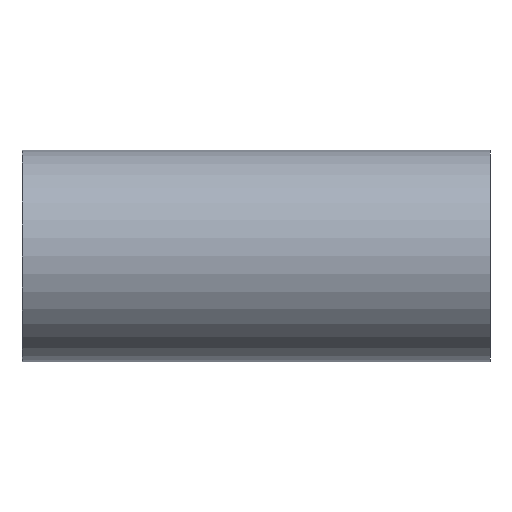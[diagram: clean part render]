
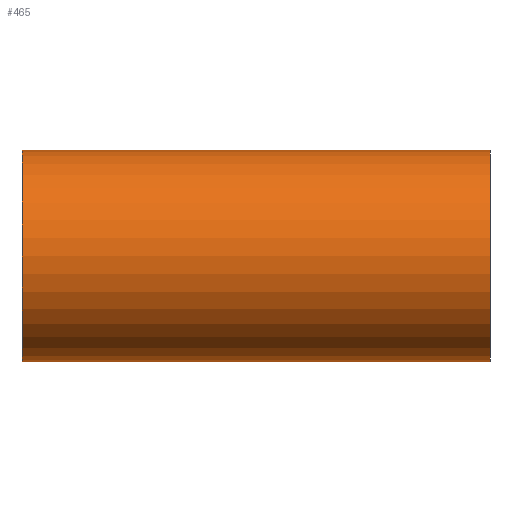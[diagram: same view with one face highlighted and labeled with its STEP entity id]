
A CAD part, front view. The second image highlights one B-rep face of the part: STEP entity #465.
In plain terms, the highlighted cylindrical face has radius 19.05 mm (diameter 38.1 mm), a partial arc.
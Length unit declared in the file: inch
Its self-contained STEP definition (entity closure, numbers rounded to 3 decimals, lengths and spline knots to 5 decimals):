
#25 = EDGE_CURVE ( 'NONE', #110, #478, #365, .T. ) ;
#31 = DIRECTION ( 'NONE',  ( 0., 0., 1. ) ) ;
#73 = CYLINDRICAL_SURFACE ( 'NONE', #486, 0.75 ) ;
#74 = VERTEX_POINT ( 'NONE', #524 ) ;
#83 = DIRECTION ( 'NONE',  ( -1., 0., 0. ) ) ;
#103 = CARTESIAN_POINT ( 'NONE',  ( 1.656, 0., 0. ) ) ;
#110 = VERTEX_POINT ( 'NONE', #474 ) ;
#140 = CARTESIAN_POINT ( 'NONE',  ( -1.656, 0., 0.75 ) ) ;
#189 = CARTESIAN_POINT ( 'NONE',  ( 1.656, 0., 0.75 ) ) ;
#220 = FACE_OUTER_BOUND ( 'NONE', #542, .T. ) ;
#260 = ORIENTED_EDGE ( 'NONE', *, *, #625, .F. ) ;
#275 = DIRECTION ( 'NONE',  ( -1., 0., 0. ) ) ;
#330 = CARTESIAN_POINT ( 'NONE',  ( 1.656, 0., -0.75 ) ) ;
#337 = CARTESIAN_POINT ( 'NONE',  ( 1.656, 0., -0.75 ) ) ;
#347 = DIRECTION ( 'NONE',  ( -1., 0., 0. ) ) ;
#365 = CIRCLE ( 'NONE', #559, 0.75 ) ;
#392 = DIRECTION ( 'NONE',  ( 0., 0., -1. ) ) ;
#403 = CARTESIAN_POINT ( 'NONE',  ( -1.656, 0., 0. ) ) ;
#408 = ORIENTED_EDGE ( 'NONE', *, *, #602, .F. ) ;
#418 = VECTOR ( 'NONE', #613, 39.37008 ) ;
#420 = VERTEX_POINT ( 'NONE', #456 ) ;
#428 = AXIS2_PLACEMENT_3D ( 'NONE', #403, #661, #392 ) ;
#431 = ORIENTED_EDGE ( 'NONE', *, *, #25, .F. ) ;
#432 = CARTESIAN_POINT ( 'NONE',  ( 0., 0., -0.75 ) ) ;
#442 = CARTESIAN_POINT ( 'NONE',  ( 1.656, 0., 0.75 ) ) ;
#446 = VECTOR ( 'NONE', #347, 39.37008 ) ;
#456 = CARTESIAN_POINT ( 'NONE',  ( 0., 0., 0.75 ) ) ;
#465 = ADVANCED_FACE ( 'NONE', ( #220 ), #73, .T. ) ;
#466 = LINE ( 'NONE', #337, #418 ) ;
#468 = ORIENTED_EDGE ( 'NONE', *, *, #614, .T. ) ;
#472 = LINE ( 'NONE', #442, #446 ) ;
#474 = CARTESIAN_POINT ( 'NONE',  ( 1.656, 0., 0.75 ) ) ;
#478 = VERTEX_POINT ( 'NONE', #553 ) ;
#486 = AXIS2_PLACEMENT_3D ( 'NONE', #103, #557, #31 ) ;
#500 = VECTOR ( 'NONE', #83, 39.37008 ) ;
#519 = DIRECTION ( 'NONE',  ( 0., 0., -1. ) ) ;
#520 = CIRCLE ( 'NONE', #428, 0.75 ) ;
#522 = CARTESIAN_POINT ( 'NONE',  ( 1.656, 0., 0. ) ) ;
#524 = CARTESIAN_POINT ( 'NONE',  ( -1.656, 0., -0.75 ) ) ;
#527 = DIRECTION ( 'NONE',  ( 1., 0., 0. ) ) ;
#541 = VECTOR ( 'NONE', #275, 39.37008 ) ;
#542 = EDGE_LOOP ( 'NONE', ( #408, #431, #609, #668, #468, #260 ) ) ;
#553 = CARTESIAN_POINT ( 'NONE',  ( 1.656, 0., -0.75 ) ) ;
#554 = VERTEX_POINT ( 'NONE', #140 ) ;
#557 = DIRECTION ( 'NONE',  ( -1., 0., 0. ) ) ;
#559 = AXIS2_PLACEMENT_3D ( 'NONE', #522, #527, #519 ) ;
#571 = LINE ( 'NONE', #330, #541 ) ;
#595 = LINE ( 'NONE', #189, #500 ) ;
#602 = EDGE_CURVE ( 'NONE', #478, #665, #571, .T. ) ;
#604 = EDGE_CURVE ( 'NONE', #420, #554, #595, .T. ) ;
#609 = ORIENTED_EDGE ( 'NONE', *, *, #620, .T. ) ;
#613 = DIRECTION ( 'NONE',  ( -1., 0., 0. ) ) ;
#614 = EDGE_CURVE ( 'NONE', #554, #74, #520, .T. ) ;
#620 = EDGE_CURVE ( 'NONE', #110, #420, #472, .T. ) ;
#625 = EDGE_CURVE ( 'NONE', #665, #74, #466, .T. ) ;
#661 = DIRECTION ( 'NONE',  ( 1., 0., 0. ) ) ;
#665 = VERTEX_POINT ( 'NONE', #432 ) ;
#668 = ORIENTED_EDGE ( 'NONE', *, *, #604, .T. ) ;
